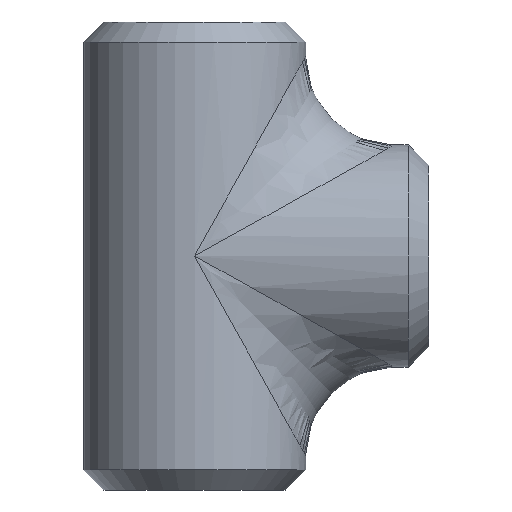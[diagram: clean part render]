
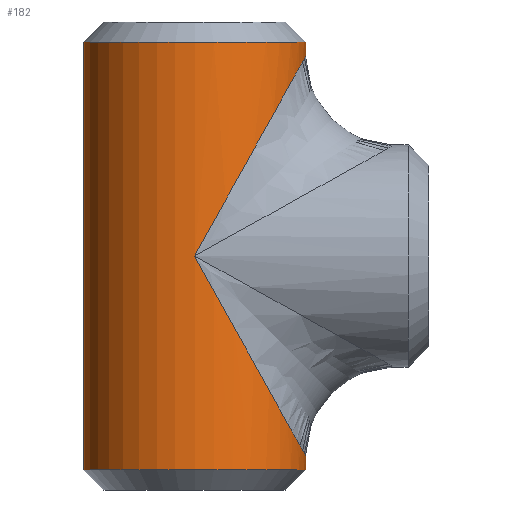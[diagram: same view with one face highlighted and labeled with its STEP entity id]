
A CAD part, front view. The second image highlights one B-rep face of the part: STEP entity #182.
In plain terms, the highlighted cylindrical face has radius 30.15 mm (diameter 60.3 mm), a partial arc.
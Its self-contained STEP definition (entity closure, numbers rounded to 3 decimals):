
#21 = ORIENTED_EDGE ( 'NONE', *, *, #410, .T. ) ;
#48 = VERTEX_POINT ( 'NONE', #992 ) ;
#75 = CARTESIAN_POINT ( 'NONE',  ( 0., -30.15, 0. ) ) ;
#102 = VECTOR ( 'NONE', #442, 1000. ) ;
#112 = VERTEX_POINT ( 'NONE', #465 ) ;
#114 = CARTESIAN_POINT ( 'NONE',  ( 17.661, -30.15, 31.791 ) ) ;
#138 = CARTESIAN_POINT ( 'NONE',  ( 30.15, 0., -57.97 ) ) ;
#164 = ORIENTED_EDGE ( 'NONE', *, *, #409, .T. ) ;
#178 = CYLINDRICAL_SURFACE ( 'NONE', #1256, 30.15 ) ;
#182 = ADVANCED_FACE ( 'NONE', ( #200 ), #178, .T. ) ;
#200 = FACE_OUTER_BOUND ( 'NONE', #704, .T. ) ;
#204 = CIRCLE ( 'NONE', #1092, 30.15 ) ;
#226 = CARTESIAN_POINT ( 'NONE',  ( 30.15, 0., 54.27 ) ) ;
#330 = DIRECTION ( 'NONE',  ( 1., 0., 0. ) ) ;
#340 = VERTEX_POINT ( 'NONE', #423 ) ;
#356 = DIRECTION ( 'NONE',  ( 1., 0., 0. ) ) ;
#360 = CARTESIAN_POINT ( 'NONE',  ( 30.15, 0., 63.5 ) ) ;
#361 = EDGE_CURVE ( 'NONE', #112, #544, #1277, .T. ) ;
#386 = CARTESIAN_POINT ( 'NONE',  ( 0., 0., 57.97 ) ) ;
#409 = EDGE_CURVE ( 'NONE', #1119, #1021, #727, .T. ) ;
#410 = EDGE_CURVE ( 'NONE', #544, #340, #439, .T. ) ;
#418 = AXIS2_PLACEMENT_3D ( 'NONE', #470, #1279, #330 ) ;
#423 = CARTESIAN_POINT ( 'NONE',  ( 30.15, 0., 54.27 ) ) ;
#428 = EDGE_CURVE ( 'NONE', #112, #610, #861, .T. ) ;
#439 =( BOUNDED_CURVE ( )  B_SPLINE_CURVE ( 3, ( #1081, #114, #1177, #226 ),
 .UNSPECIFIED., .F., .T. ) 
 B_SPLINE_CURVE_WITH_KNOTS ( ( 4, 4 ),
 ( 1.571, 3.142 ),
 .UNSPECIFIED. ) 
 CURVE ( )  GEOMETRIC_REPRESENTATION_ITEM ( )  RATIONAL_B_SPLINE_CURVE ( ( 1., 0.805, 0.805, 1. ) ) 
 REPRESENTATION_ITEM ( '' )  );
#442 = DIRECTION ( 'NONE',  ( 0., 0., -1. ) ) ;
#453 = VECTOR ( 'NONE', #1287, 1000. ) ;
#465 = CARTESIAN_POINT ( 'NONE',  ( 30.15, 0., -54.27 ) ) ;
#470 = CARTESIAN_POINT ( 'NONE',  ( 0., 0., -57.97 ) ) ;
#498 = CARTESIAN_POINT ( 'NONE',  ( -30.15, 0., 57.97 ) ) ;
#544 = VERTEX_POINT ( 'NONE', #878 ) ;
#558 = CARTESIAN_POINT ( 'NONE',  ( 30.15, 0., 63.5 ) ) ;
#575 = EDGE_CURVE ( 'NONE', #48, #340, #773, .T. ) ;
#593 = ORIENTED_EDGE ( 'NONE', *, *, #575, .F. ) ;
#610 = VERTEX_POINT ( 'NONE', #138 ) ;
#695 = VECTOR ( 'NONE', #1189, 1000. ) ;
#704 = EDGE_LOOP ( 'NONE', ( #593, #785, #164, #1205, #1344, #1093, #21 ) ) ;
#727 = LINE ( 'NONE', #979, #102 ) ;
#749 = CARTESIAN_POINT ( 'NONE',  ( 30.15, -17.661, -54.27 ) ) ;
#768 = EDGE_CURVE ( 'NONE', #1021, #610, #1254, .T. ) ;
#773 = LINE ( 'NONE', #360, #453 ) ;
#785 = ORIENTED_EDGE ( 'NONE', *, *, #1002, .T. ) ;
#792 = CARTESIAN_POINT ( 'NONE',  ( -30.15, 0., -57.97 ) ) ;
#844 = DIRECTION ( 'NONE',  ( 0., 0., -1. ) ) ;
#861 = LINE ( 'NONE', #558, #695 ) ;
#878 = CARTESIAN_POINT ( 'NONE',  ( 0., -30.15, 0. ) ) ;
#979 = CARTESIAN_POINT ( 'NONE',  ( -30.15, 0., 63.5 ) ) ;
#992 = CARTESIAN_POINT ( 'NONE',  ( 30.15, 0., 57.97 ) ) ;
#1002 = EDGE_CURVE ( 'NONE', #48, #1119, #204, .T. ) ;
#1021 = VERTEX_POINT ( 'NONE', #792 ) ;
#1025 = CARTESIAN_POINT ( 'NONE',  ( 17.661, -30.15, -31.791 ) ) ;
#1081 = CARTESIAN_POINT ( 'NONE',  ( 0., -30.15, 0. ) ) ;
#1092 = AXIS2_PLACEMENT_3D ( 'NONE', #386, #1208, #356 ) ;
#1093 = ORIENTED_EDGE ( 'NONE', *, *, #361, .T. ) ;
#1119 = VERTEX_POINT ( 'NONE', #498 ) ;
#1157 = DIRECTION ( 'NONE',  ( -1., 0., 0. ) ) ;
#1177 = CARTESIAN_POINT ( 'NONE',  ( 30.15, -17.661, 54.27 ) ) ;
#1189 = DIRECTION ( 'NONE',  ( 0., 0., -1. ) ) ;
#1205 = ORIENTED_EDGE ( 'NONE', *, *, #768, .T. ) ;
#1208 = DIRECTION ( 'NONE',  ( 0., 0., -1. ) ) ;
#1254 = CIRCLE ( 'NONE', #418, 30.15 ) ;
#1256 = AXIS2_PLACEMENT_3D ( 'NONE', #1362, #844, #1157 ) ;
#1263 = CARTESIAN_POINT ( 'NONE',  ( 30.15, 0., -54.27 ) ) ;
#1277 =( BOUNDED_CURVE ( )  B_SPLINE_CURVE ( 3, ( #1263, #749, #1025, #75 ),
 .UNSPECIFIED., .F., .T. ) 
 B_SPLINE_CURVE_WITH_KNOTS ( ( 4, 4 ),
 ( 3.142, 4.712 ),
 .UNSPECIFIED. ) 
 CURVE ( )  GEOMETRIC_REPRESENTATION_ITEM ( )  RATIONAL_B_SPLINE_CURVE ( ( 1., 0.805, 0.805, 1. ) ) 
 REPRESENTATION_ITEM ( '' )  );
#1279 = DIRECTION ( 'NONE',  ( 0., 0., 1. ) ) ;
#1287 = DIRECTION ( 'NONE',  ( 0., 0., -1. ) ) ;
#1344 = ORIENTED_EDGE ( 'NONE', *, *, #428, .F. ) ;
#1362 = CARTESIAN_POINT ( 'NONE',  ( 0., 0., 63.5 ) ) ;
